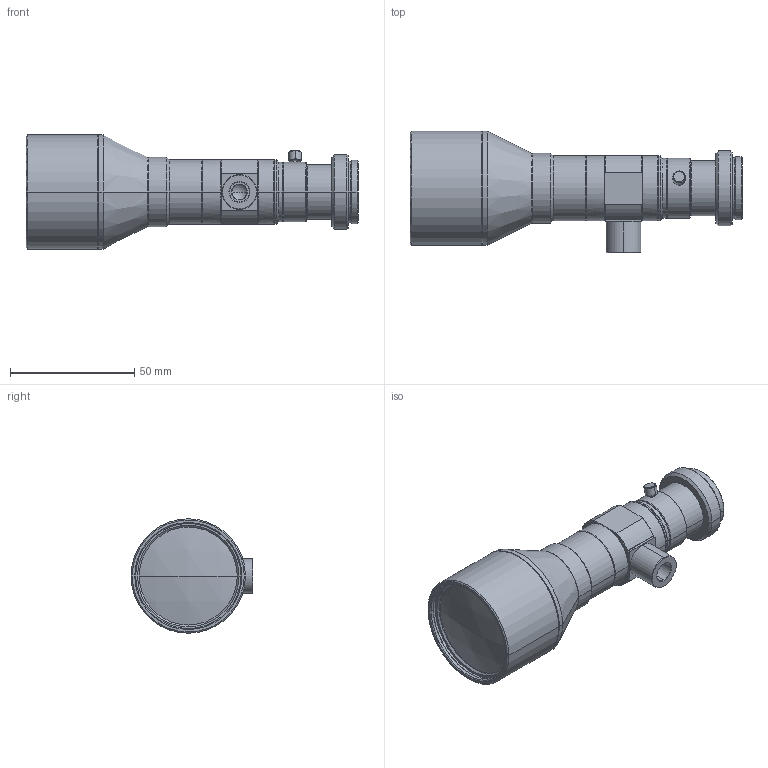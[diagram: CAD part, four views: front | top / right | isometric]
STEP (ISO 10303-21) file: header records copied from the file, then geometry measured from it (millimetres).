
FILE_DESCRIPTION (( 'STEP AP203' ), '1' );
FILE_NAME ('VS-THV05-110CO_S.STEP', '2016-04-11T01:15:33', ( '' ), ( '' ), 'SwSTEP 2.0', 'SolidWorks 2016', '' );
FILE_SCHEMA (( 'CONFIG_CONTROL_DESIGN' ));
Length unit declared in the file: millimetre
Products named in the file (1): VS-THV05-110CO_S
Bounding box: 133.47 x 49 x 46 mm (x, y, z)
Volume: 107920.7 mm3; surface area: 20346.9 mm2
Topology: 2 solids, 2 shells, 212 faces, 444 edges, 259 vertices
Faces by surface type: cone 88, cylinder 76, plane 42, sphere 6
Entity records: 5735 total; most frequent: DIRECTION 1088, CARTESIAN_POINT 996, ORIENTED_EDGE 888, AXIS2_PLACEMENT_3D 449, EDGE_CURVE 444, VERTEX_POINT 259, CIRCLE 236, EDGE_LOOP 235
